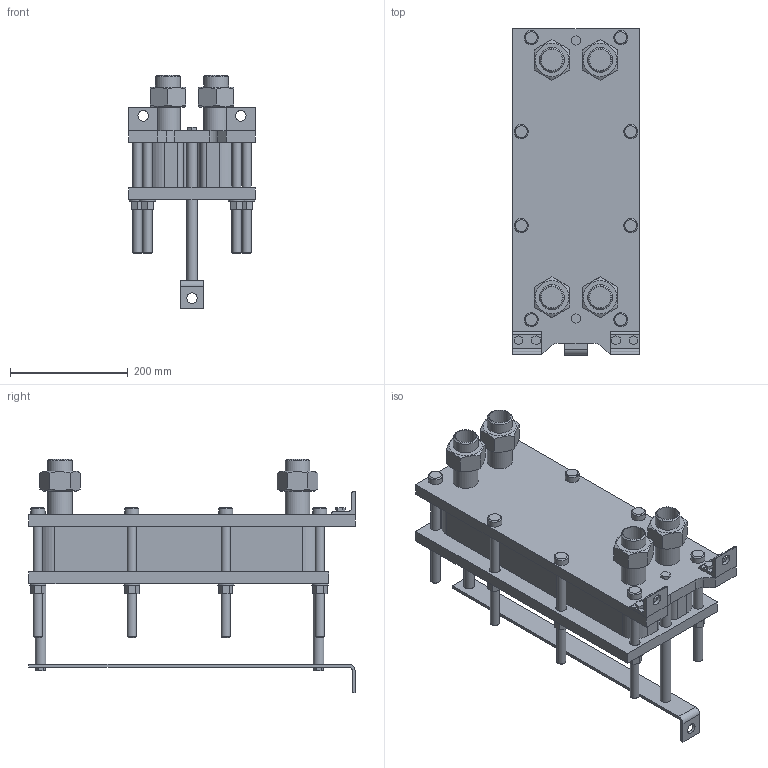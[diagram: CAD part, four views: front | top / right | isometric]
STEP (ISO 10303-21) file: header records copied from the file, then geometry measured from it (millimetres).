
FILE_DESCRIPTION(/* description */ (''),/* implementation_level */ '2;1');
FILE_NAME(/* name */ 'C:\Users\zhuro\Desktop\ENCO\TO\ЭН-004\ЭН-0,5-004-25-1.stp',/* time_stamp */ '2022-06-06T10:45:24+03:00',/* author */ ('zhuro'),/* organization */ (''),/* preprocessor_version */ 'ST-DEVELOPER v18.1',/* originating_system */ 'Autodesk Inventor 2022',/* authorisation */ '');
FILE_SCHEMA (('AUTOMOTIVE_DESIGN { 1 0 10303 214 3 1 1 }'));
Length unit declared in the file: millimetre
Products named in the file (1): ЭН-0,5-004-25-1
Bounding box: 216 x 555 x 397 mm (x, y, z)
Volume: 11303436 mm3; surface area: 1126908.9 mm2
Topology: 40 solids, 40 shells, 403 faces, 865 edges, 574 vertices
Faces by surface type: plane 272, cylinder 103, cone 28
Full cylindrical faces by diameter (mm): 10 x4, 16 x16, 18 x29, 20 x2, 24 x8, 28 x8, 36.3 x5, 42.3 x9
Entity records: 11137 total; most frequent: CARTESIAN_POINT 1939, DIRECTION 1879, ORIENTED_EDGE 1730, EDGE_CURVE 865, AXIS2_PLACEMENT_3D 658, VERTEX_POINT 574, LINE 563, VECTOR 563
